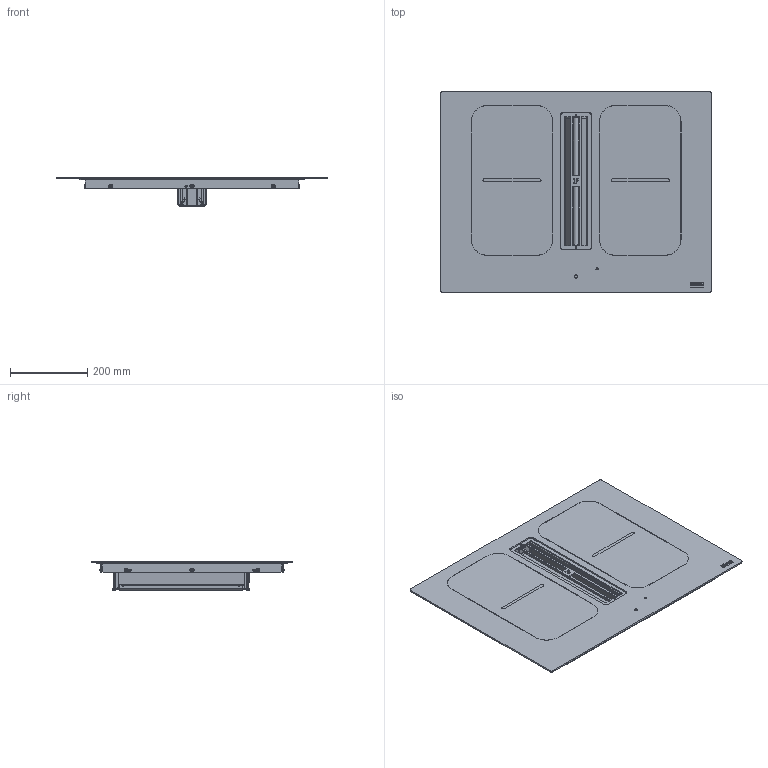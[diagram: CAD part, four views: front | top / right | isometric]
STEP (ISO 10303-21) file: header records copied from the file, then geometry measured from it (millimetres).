
FILE_DESCRIPTION(/* description */ (''),/* implementation_level */ '2;1');
FILE_NAME(/* name */ '3D001_Smart 2gether Black Lines',/* time_stamp */ '2024-03-28T11:54:55+01:00',/* author */ (''),/* organization */ (''),/* preprocessor_version */ 'ST-DEVELOPER v19.2',/* originating_system */ 'Rhino 8.4',/* authorisation */ '');
FILE_SCHEMA (('CONFIG_CONTROL_DESIGN'));
Length unit declared in the file: millimetre
Products named in the file (13): Document; SCR_057; 340006_1020_ASM; 340006_299; 340006_298; 340006_300; SCR_036; 340006_290; 340006_289; Blocco 07; 340006_173; 340006_002; Blocco 05
Bounding box: 699.97 x 519.97 x 75.44 mm (x, y, z)
Volume: 1709416.3 mm3; surface area: 1150315.5 mm2
Topology: 26 solids, 471 shells, 3776 faces, 10676 edges, 7413 vertices
Faces by surface type: plane 2414, cylinder 786, bspline 576
Entity records: 86326 total; most frequent: CARTESIAN_POINT 48279, ORIENTED_EDGE 8656, EDGE_CURVE 4857, DIRECTION 3918, B_SPLINE_CURVE_WITH_KNOTS 3648, VERTEX_POINT 3319, AXIS2_PLACEMENT_3D 2655, EDGE_LOOP 1856
